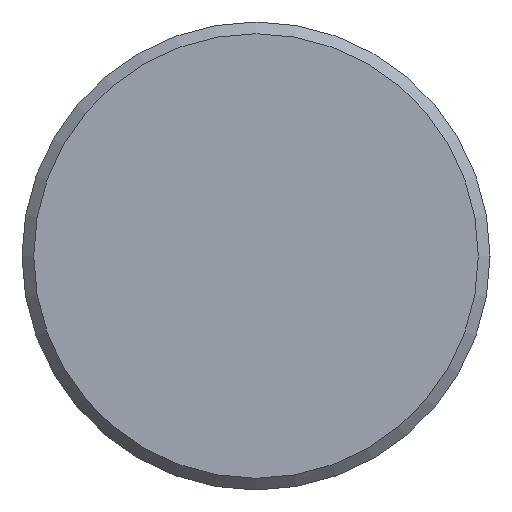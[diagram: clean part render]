
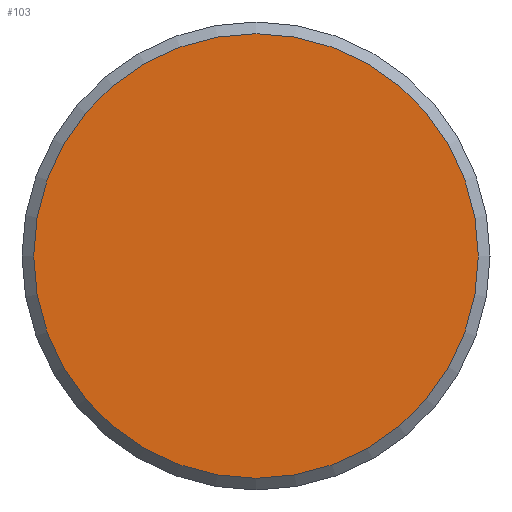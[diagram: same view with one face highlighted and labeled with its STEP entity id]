
A CAD part, left-side view. The second image highlights one B-rep face of the part: STEP entity #103.
In plain terms, the highlighted planar face has unit normal (-1, 0, 0).
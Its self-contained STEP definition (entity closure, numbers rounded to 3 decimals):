
#16=PLANE('',#138);
#30=FACE_OUTER_BOUND('',#36,.T.);
#36=EDGE_LOOP('',(#89));
#45=CIRCLE('',#137,19.);
#53=VERTEX_POINT('',#197);
#65=EDGE_CURVE('',#53,#53,#45,.T.);
#89=ORIENTED_EDGE('',*,*,#65,.F.);
#103=ADVANCED_FACE('',(#30),#16,.F.);
#137=AXIS2_PLACEMENT_3D('',#199,#170,#171);
#138=AXIS2_PLACEMENT_3D('',#200,#172,#173);
#170=DIRECTION('center_axis',(1.,0.,0.));
#171=DIRECTION('ref_axis',(0.,-1.,0.));
#172=DIRECTION('center_axis',(1.,0.,0.));
#173=DIRECTION('ref_axis',(0.,0.,-1.));
#197=CARTESIAN_POINT('',(0.,19.,0.));
#199=CARTESIAN_POINT('Origin',(0.,0.,0.));
#200=CARTESIAN_POINT('Origin',(0.,0.,0.));
